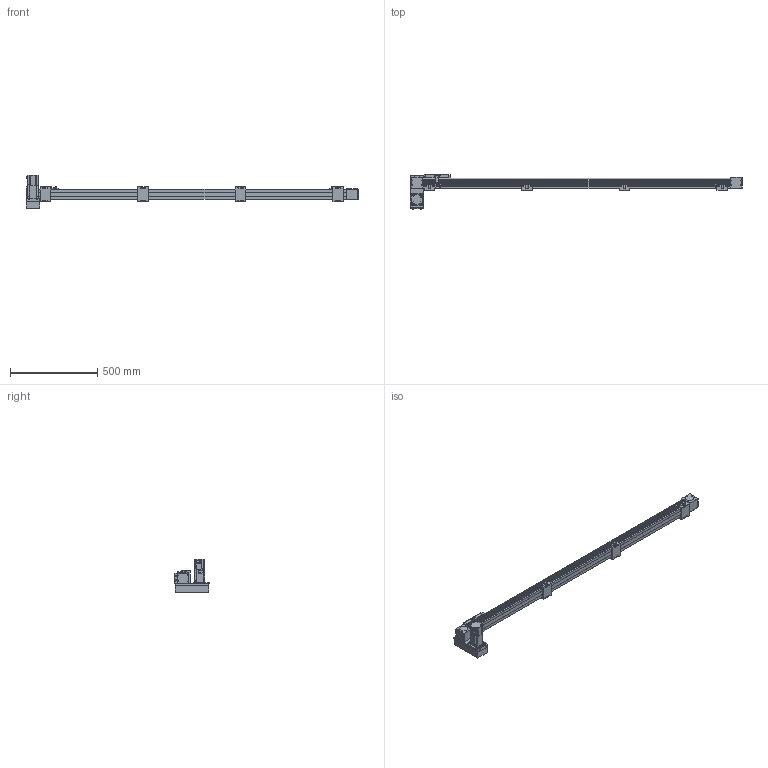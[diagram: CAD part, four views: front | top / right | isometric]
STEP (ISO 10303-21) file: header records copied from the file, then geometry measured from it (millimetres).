
FILE_DESCRIPTION(/* description */ ('STEP AP214'),/* implementation_level */ '2;1');
FILE_NAME(/* name */ 'SK60-P13-S1600-LD-T40-C1-N(0)',/* time_stamp */ '2023-04-06T04:39:10+02:00',/* author */ ('License CC BY-ND 4.0'),/* organization */ ('CADENAS'),/* preprocessor_version */ 'ST-DEVELOPER v19.3',/* originating_system */ 'PARTsolutions',/* authorisation */ ' ');
FILE_SCHEMA (('AUTOMOTIVE_DESIGN {1 0 10303 214 3 1 1}'));
Length unit declared in the file: millimetre
Products named in the file (10): SK60-P13-S1600-LD-T40-C1-N(0); PSC140-sensor; SK60-S450_seat; SK60-S450-BL-C1_slider; SK60_body3; SK60_body6; SK60-BL_body2; T40-p1; SK60-LD_fb; SK60-S1600-LD-C1_body
Assembly tree (18 placements, depth 2):
  SK60-P13-S1600-LD-T40-C1-N(0)
    PSC140-sensor  x3
    SK60-S450_seat  x4
    SK60-S450-BL-C1_slider
    SK60_body3  x3
    SK60_body6  x2
    SK60-BL_body2  x2
    T40-p1
    SK60-LD_fb
    SK60-S1600-LD-C1_body
Bounding box: 1905.5 x 199 x 189.7 mm (x, y, z)
Volume: 7692365.5 mm3; surface area: 937776.1 mm2
Topology: 18 solids, 18 shells, 898 faces, 2244 edges, 1477 vertices
Faces by surface type: plane 572, cylinder 294, cone 30, torus 2
Full cylindrical faces by diameter (mm): 2.8 x3, 3.3 x4, 4 x2, 4.5 x30, 4.6 x3, 4.917 x24, 5 x6, 5.478 x4, 5.5 x27, 6.5 x8, 7 x2, 8 x4, 8.5 x4, 9.988 x4, 10 x16, 14 x1, 47 x3, 50 x2
Entity records: 18671 total; most frequent: DIRECTION 3188, CARTESIAN_POINT 3152, ORIENTED_EDGE 2940, EDGE_CURVE 1470, AXIS2_PLACEMENT_3D 1070, LINE 1048, VECTOR 1048, VERTEX_POINT 1034
